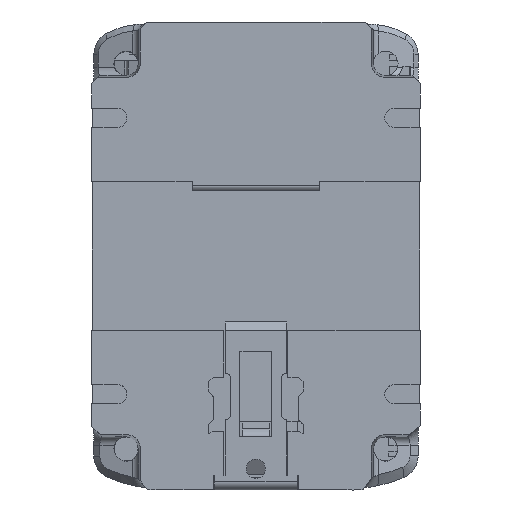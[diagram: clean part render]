
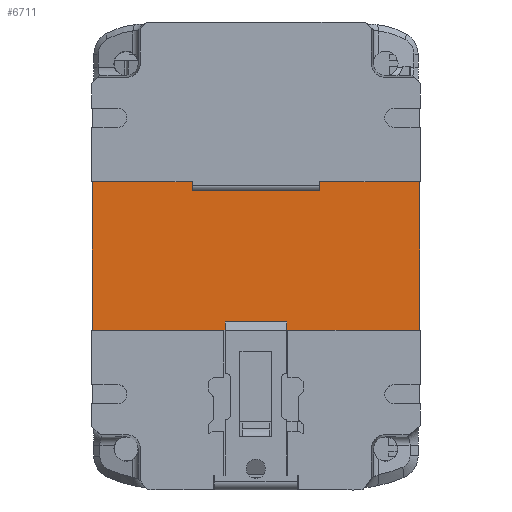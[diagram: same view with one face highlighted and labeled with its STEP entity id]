
A CAD part, top view. The second image highlights one B-rep face of the part: STEP entity #6711.
In plain terms, the highlighted planar face has unit normal (0, 0, 1).
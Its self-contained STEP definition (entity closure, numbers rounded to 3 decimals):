
#667 = ORIENTED_EDGE ( 'NONE', *, *, #31908, .F. ) ;
#2106 = VERTEX_POINT ( 'NONE', #15558 ) ;
#2817 = VECTOR ( 'NONE', #29658, 1000. ) ;
#2989 = VERTEX_POINT ( 'NONE', #27774 ) ;
#3167 = CARTESIAN_POINT ( 'NONE',  ( 29.176, -23.697, 27.371 ) ) ;
#3819 = CARTESIAN_POINT ( 'NONE',  ( -47.912, -23.697, 27.371 ) ) ;
#4149 = ORIENTED_EDGE ( 'NONE', *, *, #28317, .F. ) ;
#6236 = DIRECTION ( 'NONE',  ( 0., 0., -1. ) ) ;
#6711 = ADVANCED_FACE ( 'NONE', ( #20468 ), #13662, .F. ) ;
#7129 = ORIENTED_EDGE ( 'NONE', *, *, #18946, .F. ) ;
#8931 = LINE ( 'NONE', #3819, #15551 ) ;
#10556 = AXIS2_PLACEMENT_3D ( 'NONE', #21213, #6236, #23757 ) ;
#11547 = VERTEX_POINT ( 'NONE', #20535 ) ;
#13046 = ORIENTED_EDGE ( 'NONE', *, *, #17181, .F. ) ;
#13662 = PLANE ( 'NONE',  #10556 ) ;
#13744 = EDGE_LOOP ( 'NONE', ( #667, #13046, #4149, #7129 ) ) ;
#13752 = LINE ( 'NONE', #3167, #19649 ) ;
#15551 = VECTOR ( 'NONE', #18819, 1000. ) ;
#15558 = CARTESIAN_POINT ( 'NONE',  ( -47.912, -9.96, 27.371 ) ) ;
#16114 = DIRECTION ( 'NONE',  ( 1., 0., 0. ) ) ;
#17181 = EDGE_CURVE ( 'NONE', #2106, #2989, #18149, .T. ) ;
#17206 = CARTESIAN_POINT ( 'NONE',  ( -11.924, -44.96, 27.371 ) ) ;
#18149 = LINE ( 'NONE', #28583, #24050 ) ;
#18819 = DIRECTION ( 'NONE',  ( 0., 1., 0. ) ) ;
#18946 = EDGE_CURVE ( 'NONE', #11547, #21789, #29468, .T. ) ;
#19649 = VECTOR ( 'NONE', #25705, 1000. ) ;
#20468 = FACE_OUTER_BOUND ( 'NONE', #13744, .T. ) ;
#20535 = CARTESIAN_POINT ( 'NONE',  ( 29.176, -44.96, 27.371 ) ) ;
#21213 = CARTESIAN_POINT ( 'NONE',  ( -11.924, -23.697, 27.371 ) ) ;
#21789 = VERTEX_POINT ( 'NONE', #31965 ) ;
#23757 = DIRECTION ( 'NONE',  ( 0., -1., 0. ) ) ;
#24050 = VECTOR ( 'NONE', #16114, 1000. ) ;
#25705 = DIRECTION ( 'NONE',  ( 0., -1., 0. ) ) ;
#27774 = CARTESIAN_POINT ( 'NONE',  ( 29.176, -9.96, 27.371 ) ) ;
#28317 = EDGE_CURVE ( 'NONE', #21789, #2106, #8931, .T. ) ;
#28583 = CARTESIAN_POINT ( 'NONE',  ( -11.924, -9.96, 27.371 ) ) ;
#29468 = LINE ( 'NONE', #17206, #2817 ) ;
#29658 = DIRECTION ( 'NONE',  ( -1., 0., 0. ) ) ;
#31908 = EDGE_CURVE ( 'NONE', #2989, #11547, #13752, .T. ) ;
#31965 = CARTESIAN_POINT ( 'NONE',  ( -47.912, -44.96, 27.371 ) ) ;
